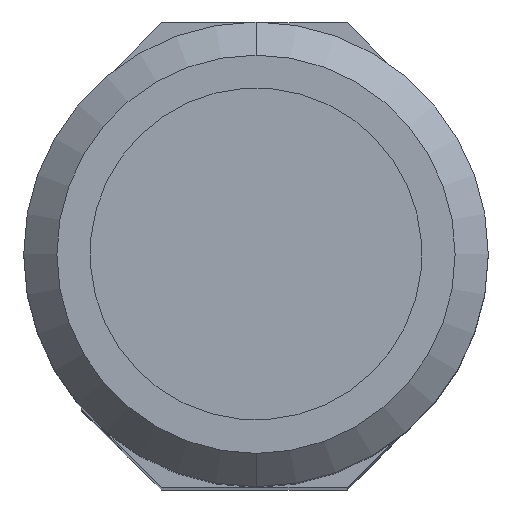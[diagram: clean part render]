
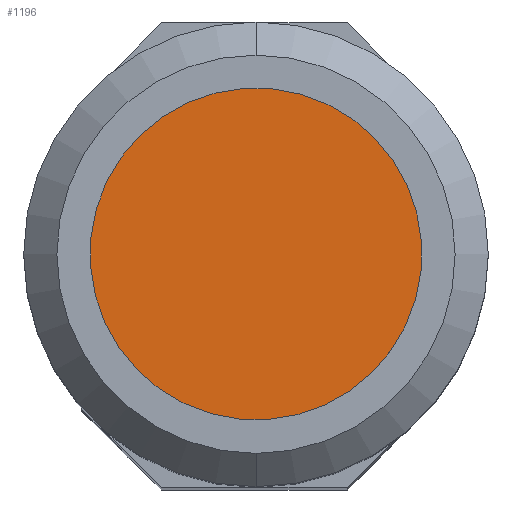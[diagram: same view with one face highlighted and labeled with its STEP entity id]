
A CAD part, top view. The second image highlights one B-rep face of the part: STEP entity #1196.
In plain terms, the highlighted planar face has unit normal (0, 0, 1) as drawn and (0, 1, 0) by its records, which use the part's own axes.
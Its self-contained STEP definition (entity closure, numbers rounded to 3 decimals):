
#51 = ORIENTED_EDGE ( 'NONE', *, *, #1569, .T. ) ;
#98 = CARTESIAN_POINT ( 'NONE',  ( 0., 6.1, -2.5 ) ) ;
#290 = VERTEX_POINT ( 'NONE', #98 ) ;
#298 = AXIS2_PLACEMENT_3D ( 'NONE', #392, #2264, #1572 ) ;
#392 = CARTESIAN_POINT ( 'NONE',  ( -3.81, 6.1, -2.5 ) ) ;
#597 = AXIS2_PLACEMENT_3D ( 'NONE', #2669, #1725, #2203 ) ;
#663 = EDGE_LOOP ( 'NONE', ( #2305, #51 ) ) ;
#790 = DIRECTION ( 'NONE',  ( 0., 1., 0. ) ) ;
#1196 = ADVANCED_FACE ( 'NONE', ( #2805 ), #1298, .F. ) ;
#1298 = PLANE ( 'NONE',  #298 ) ;
#1557 = VERTEX_POINT ( 'NONE', #1714 ) ;
#1569 = EDGE_CURVE ( 'NONE', #1557, #290, #2382, .T. ) ;
#1572 = DIRECTION ( 'NONE',  ( 0., 0., -1. ) ) ;
#1714 = CARTESIAN_POINT ( 'NONE',  ( 0., 6.1, 2.5 ) ) ;
#1725 = DIRECTION ( 'NONE',  ( 0., 1., 0. ) ) ;
#1792 = CIRCLE ( 'NONE', #597, 2.5 ) ;
#1886 = EDGE_CURVE ( 'NONE', #290, #1557, #1792, .T. ) ;
#1929 = CARTESIAN_POINT ( 'NONE',  ( 0., 6.1, 0. ) ) ;
#2140 = DIRECTION ( 'NONE',  ( 0., 0., -1. ) ) ;
#2203 = DIRECTION ( 'NONE',  ( 0., 0., -1. ) ) ;
#2264 = DIRECTION ( 'NONE',  ( 0., -1., 0. ) ) ;
#2305 = ORIENTED_EDGE ( 'NONE', *, *, #1886, .T. ) ;
#2382 = CIRCLE ( 'NONE', #2756, 2.5 ) ;
#2669 = CARTESIAN_POINT ( 'NONE',  ( 0., 6.1, 0. ) ) ;
#2756 = AXIS2_PLACEMENT_3D ( 'NONE', #1929, #790, #2140 ) ;
#2805 = FACE_OUTER_BOUND ( 'NONE', #663, .T. ) ;
